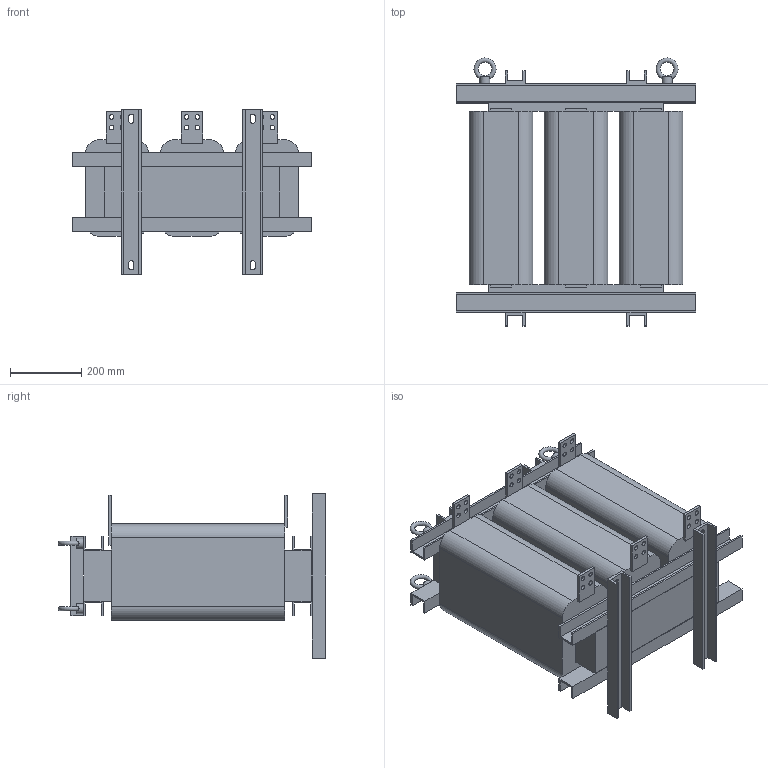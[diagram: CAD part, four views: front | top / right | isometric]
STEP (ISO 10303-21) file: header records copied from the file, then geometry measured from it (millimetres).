
FILE_DESCRIPTION(/* description */ (''),/* implementation_level */ '2;1');
FILE_NAME(/* name */ 'ACO-1080-T6-4.stp',/* time_stamp */ '2025-01-23T16:44:05+04:00',/* author */ ('Александр (огранич)'),/* organization */ (''),/* preprocessor_version */ 'ST-DEVELOPER v19.2',/* originating_system */ 'Autodesk Inventor 2024',/* authorisation */ '');
FILE_SCHEMA (('AUTOMOTIVE_DESIGN { 1 0 10303 214 3 1 1 }'));
Length unit declared in the file: millimetre
Products named in the file (1): ACO-0015-T4-4
Bounding box: 670 x 749.99 x 460 mm (x, y, z)
Volume: 81939049.6 mm3; surface area: 2621498.9 mm2
Topology: 1 solids, 1 shells, 226 faces, 644 edges, 408 vertices
Faces by surface type: plane 174, cylinder 48, torus 4
Full cylindrical faces by diameter (mm): 13 x24, 28 x4
Entity records: 7731 total; most frequent: CARTESIAN_POINT 1631, ORIENTED_EDGE 1288, DIRECTION 1186, EDGE_CURVE 644, LINE 516, VECTOR 516, VERTEX_POINT 408, AXIS2_PLACEMENT_3D 335
